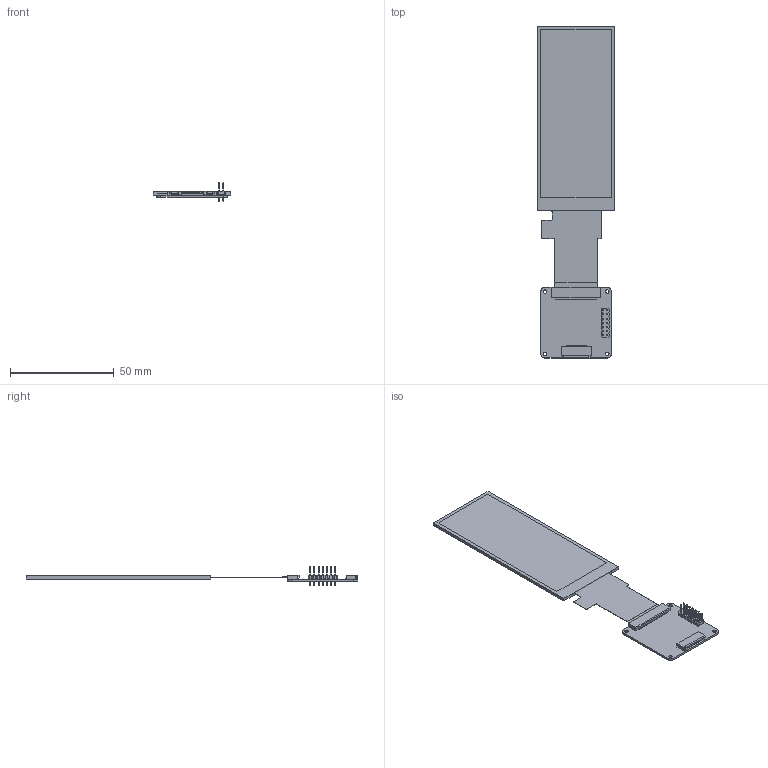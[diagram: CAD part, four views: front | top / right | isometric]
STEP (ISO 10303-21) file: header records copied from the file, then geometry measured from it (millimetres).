
FILE_DESCRIPTION((''),'2;1');
FILE_NAME('TS035WVV02NP-B1683A-V00-241209','2024-12-09T12:00:00',('Shaozi'),(''),'CREO PARAMETRIC BY PTC INC, 2024063','CREO PARAMETRIC BY PTC INC, 2024063','');
FILE_SCHEMA(('AUTOMOTIVE_DESIGN { 1 0 10303 214 1 1 1 1 }'));
Length unit declared in the file: millimetre
Products named in the file (1): TS035WVV02NP-B1683A-V00-241209
Bounding box: 37.27 x 159.92 x 8.8 mm (x, y, z)
Surface area: 12119.4 mm2 (no closed solid volume)
Topology: 0 solids, 20 shells, 303 faces, 939 edges, 654 vertices
Faces by surface type: plane 283, cylinder 20
Entity records: 11971 total; most frequent: CARTESIAN_POINT 1896, ORIENTED_EDGE 1600, DIRECTION 1585, EDGE_CURVE 939, VECTOR 899, LINE 899, VERTEX_POINT 654, AXIS2_PLACEMENT_3D 343
